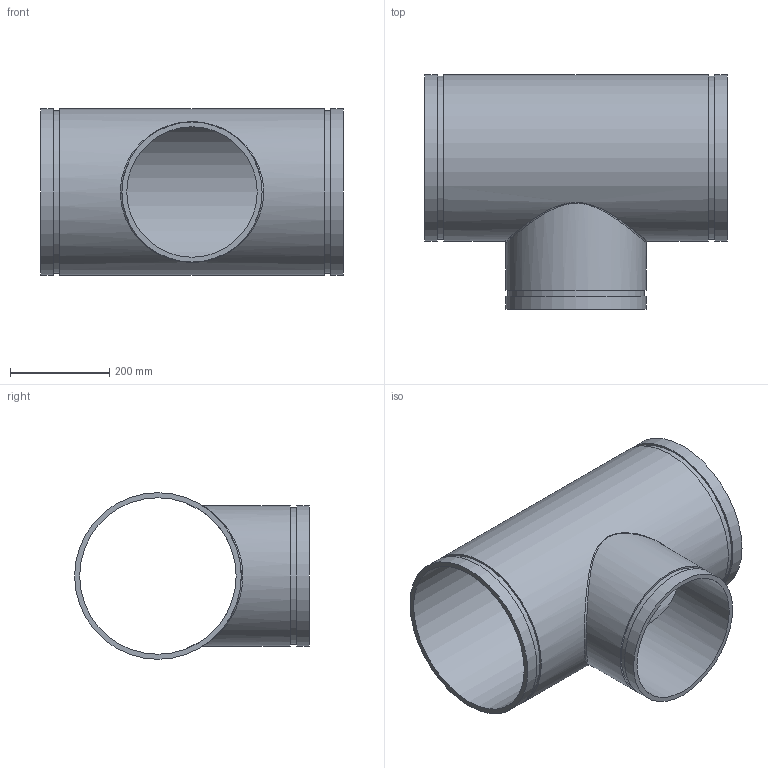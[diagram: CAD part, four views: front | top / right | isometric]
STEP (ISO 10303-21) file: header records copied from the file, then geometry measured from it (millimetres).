
FILE_DESCRIPTION(/* description */ ('VIC REDUCING TEE No 25-C','CAx-IF Rec.Pracs.---Representation and Presentation of Product Manufacturing Information (PMI)---4.0---2014-10-13'),/* implementation_level */ '2;1');
FILE_NAME(/* name */ 'C:\Users\Vjadhav\AppData\Roaming\Autodesk\ApplicationPlugins\Back Up\Victaulic_AWWA_Tee Reducing_No 25-C (DRG)\Victaulic_AWWA_Tee Reducing_No 25-C (DRG)_12.0x10.0 (300x250).stp',/* time_stamp */ '2020-08-18T18:18:03+06:00',/* author */ ('CORINNE GRAY'),/* organization */ ('Victaulic'),/* preprocessor_version */ 'ST-DEVELOPER v17.2',/* originating_system */ 'Autodesk Inventor 2019',/* authorisation */ '');
FILE_SCHEMA (('AP242_MANAGED_MODEL_BASED_3D_ENGINEERING_MIM_LF { 1 0 10303 442 1 1 4 }'));
Length unit declared in the file: inch
Products named in the file (1): 25C-12.0x10.0
Bounding box: 609.6 x 472.44 x 335.28 mm (x, y, z)
Volume: 6977300.9 mm3; surface area: 1465018.6 mm2
Topology: 1 solids, 1 shells, 20 faces, 44 edges, 33 vertices
Faces by surface type: cylinder 10, plane 9, bspline 1
Full cylindrical faces by diameter (mm): 262.636 x1, 274.65 x1, 281.94 x2, 314.96 x1, 327.812 x2, 335.28 x3
Entity records: 1095 total; most frequent: CARTESIAN_POINT 471, DIRECTION 135, ORIENTED_EDGE 90, AXIS2_PLACEMENT_3D 62, EDGE_CURVE 45, VERTEX_POINT 34, EDGE_LOOP 31, CIRCLE 29
